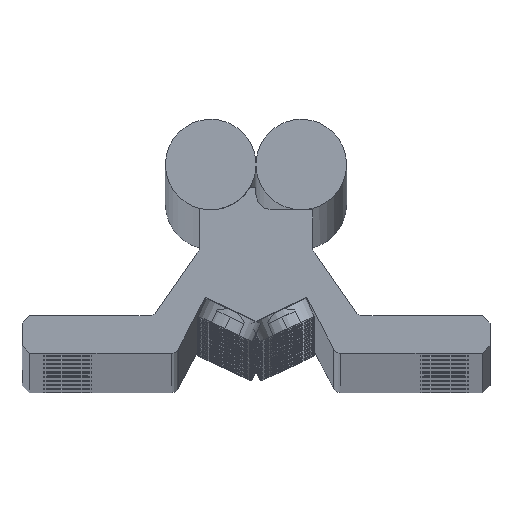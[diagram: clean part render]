
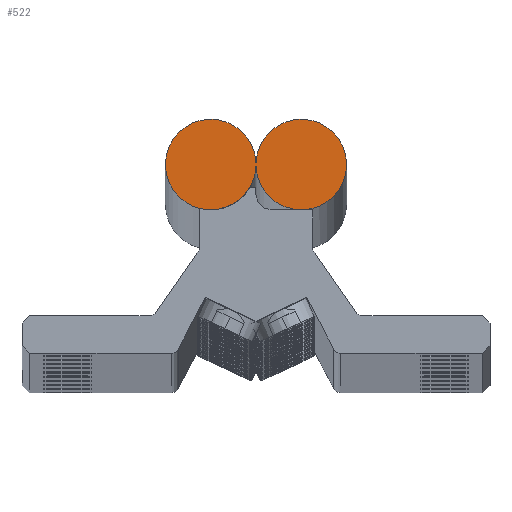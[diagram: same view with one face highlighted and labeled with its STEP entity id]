
A CAD part, top view. The second image highlights one B-rep face of the part: STEP entity #522.
In plain terms, the highlighted planar face has unit normal (0, 0, 1).
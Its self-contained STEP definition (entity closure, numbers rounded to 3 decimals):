
#522 = ADVANCED_FACE ( 'NONE', ( #30148 ), #30146, .T. ) ;
#523 = ORIENTED_EDGE ( 'NONE', *, *, #33228, .T. ) ;
#524 = ORIENTED_EDGE ( 'NONE', *, *, #3432, .T. ) ;
#525 = ORIENTED_EDGE ( 'NONE', *, *, #3402, .T. ) ;
#526 = ORIENTED_EDGE ( 'NONE', *, *, #3411, .T. ) ;
#527 = ORIENTED_EDGE ( 'NONE', *, *, #3403, .T. ) ;
#543 = EDGE_LOOP ( 'NONE', ( #523, #524, #525, #526, #527 ) ) ;
#3372 = VERTEX_POINT ( 'NONE', #12483 ) ;
#3402 = EDGE_CURVE ( 'NONE', #3372, #3413, #12526, .T. ) ;
#3403 = EDGE_CURVE ( 'NONE', #3404, #33229, #12522, .T. ) ;
#3404 = VERTEX_POINT ( 'NONE', #12518 ) ;
#3411 = EDGE_CURVE ( 'NONE', #3413, #3404, #12510, .T. ) ;
#3413 = VERTEX_POINT ( 'NONE', #12567 ) ;
#3432 = EDGE_CURVE ( 'NONE', #33226, #3372, #12545, .T. ) ;
#11760 = DIRECTION ( 'NONE',  ( 1., 0., 0. ) ) ;
#11761 = DIRECTION ( 'NONE',  ( 0., 0., 1. ) ) ;
#11762 = CARTESIAN_POINT ( 'NONE',  ( -6., 25., 1. ) ) ;
#12483 = CARTESIAN_POINT ( 'NONE',  ( 0.005, 25.25, 1. ) ) ;
#12505 = AXIS2_PLACEMENT_3D ( 'NONE', #11762, #11761, #11760 ) ;
#12510 = CIRCLE ( 'NONE', #12505, 6. ) ;
#12518 = CARTESIAN_POINT ( 'NONE',  ( -0.005, 24.75, 1. ) ) ;
#12519 = DIRECTION ( 'NONE',  ( 1., 0., 0. ) ) ;
#12520 = VECTOR ( 'NONE', #12519, 1000. ) ;
#12521 = CARTESIAN_POINT ( 'NONE',  ( -0.005, 24.75, 1. ) ) ;
#12522 = LINE ( 'NONE', #12521, #12520 ) ;
#12523 = DIRECTION ( 'NONE',  ( -1., 0., 0. ) ) ;
#12524 = VECTOR ( 'NONE', #12523, 1000. ) ;
#12525 = CARTESIAN_POINT ( 'NONE',  ( 0.005, 25.25, 1. ) ) ;
#12526 = LINE ( 'NONE', #12525, #12524 ) ;
#12541 = DIRECTION ( 'NONE',  ( 1., 0., 0. ) ) ;
#12542 = DIRECTION ( 'NONE',  ( 0., 0., 1. ) ) ;
#12543 = CARTESIAN_POINT ( 'NONE',  ( 6., 25., 1. ) ) ;
#12544 = AXIS2_PLACEMENT_3D ( 'NONE', #12543, #12542, #12541 ) ;
#12545 = CIRCLE ( 'NONE', #12544, 6. ) ;
#12567 = CARTESIAN_POINT ( 'NONE',  ( -0.005, 25.25, 1. ) ) ;
#30139 = DIRECTION ( 'NONE',  ( 1., 0., 0. ) ) ;
#30140 = DIRECTION ( 'NONE',  ( 0., 0., 1. ) ) ;
#30141 = CARTESIAN_POINT ( 'NONE',  ( 6., 25., 1. ) ) ;
#30142 = AXIS2_PLACEMENT_3D ( 'NONE', #30141, #30140, #30139 ) ;
#30146 = PLANE ( 'NONE',  #30142 ) ;
#30148 = FACE_OUTER_BOUND ( 'NONE', #543, .T. ) ;
#33226 = VERTEX_POINT ( 'NONE', #42594 ) ;
#33228 = EDGE_CURVE ( 'NONE', #33229, #33226, #42593, .T. ) ;
#33229 = VERTEX_POINT ( 'NONE', #42650 ) ;
#42590 = DIRECTION ( 'NONE',  ( 0., 0., 1. ) ) ;
#42591 = CARTESIAN_POINT ( 'NONE',  ( 6., 25., 1. ) ) ;
#42592 = AXIS2_PLACEMENT_3D ( 'NONE', #42591, #42590, #42651 ) ;
#42593 = CIRCLE ( 'NONE', #42592, 6. ) ;
#42594 = CARTESIAN_POINT ( 'NONE',  ( 12., 25., 1. ) ) ;
#42650 = CARTESIAN_POINT ( 'NONE',  ( 0.005, 24.75, 1. ) ) ;
#42651 = DIRECTION ( 'NONE',  ( 1., 0., 0. ) ) ;
